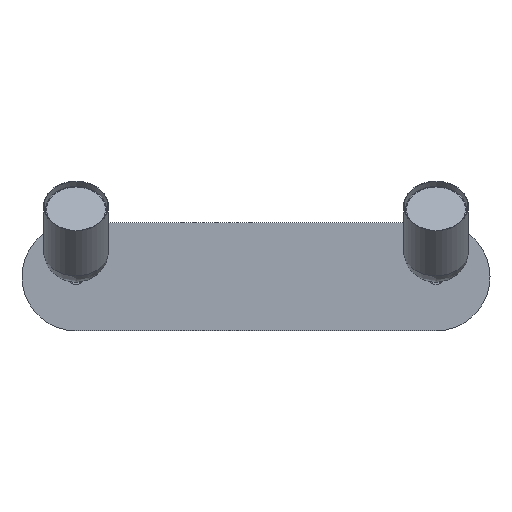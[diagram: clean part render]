
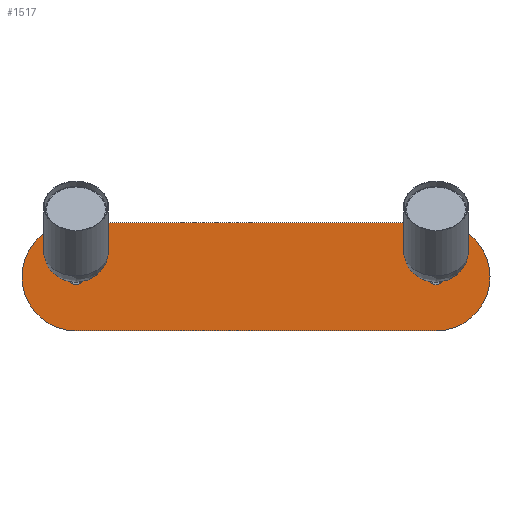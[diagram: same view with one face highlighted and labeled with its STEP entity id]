
A CAD part, front view. The second image highlights one B-rep face of the part: STEP entity #1517.
In plain terms, the highlighted planar face has unit normal (0, -1, 0).
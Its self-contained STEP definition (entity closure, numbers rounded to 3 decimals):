
#210=FACE_OUTER_BOUND('',#307,.T.);
#307=EDGE_LOOP('',(#1337,#1338,#1339,#1340));
#409=LINE('',#2929,#520);
#414=LINE('',#2943,#525);
#520=VECTOR('',#2112,10.);
#525=VECTOR('',#2125,10.);
#596=CIRCLE('',#1713,45.);
#598=CIRCLE('',#1717,45.);
#728=VERTEX_POINT('',#2927);
#729=VERTEX_POINT('',#2928);
#732=VERTEX_POINT('',#2936);
#734=VERTEX_POINT('',#2942);
#927=EDGE_CURVE('',#728,#729,#409,.T.);
#931=EDGE_CURVE('',#732,#728,#596,.T.);
#934=EDGE_CURVE('',#734,#732,#414,.T.);
#937=EDGE_CURVE('',#729,#734,#598,.T.);
#1337=ORIENTED_EDGE('',*,*,#937,.F.);
#1338=ORIENTED_EDGE('',*,*,#927,.F.);
#1339=ORIENTED_EDGE('',*,*,#931,.F.);
#1340=ORIENTED_EDGE('',*,*,#934,.F.);
#1424=PLANE('',#1720);
#1517=ADVANCED_FACE('',(#210),#1424,.F.);
#1713=AXIS2_PLACEMENT_3D('',#2937,#2118,#2119);
#1717=AXIS2_PLACEMENT_3D('',#2948,#2130,#2131);
#1720=AXIS2_PLACEMENT_3D('',#2951,#2136,#2137);
#2112=DIRECTION('',(-1.,0.,0.));
#2118=DIRECTION('center_axis',(0.,1.,0.));
#2119=DIRECTION('ref_axis',(0.,0.,1.));
#2125=DIRECTION('',(1.,0.,0.));
#2130=DIRECTION('center_axis',(0.,1.,0.));
#2131=DIRECTION('ref_axis',(0.,0.,-1.));
#2136=DIRECTION('center_axis',(0.,1.,0.));
#2137=DIRECTION('ref_axis',(1.,0.,0.));
#2927=CARTESIAN_POINT('',(150.,0.,-45.));
#2928=CARTESIAN_POINT('',(-150.,0.,-45.));
#2929=CARTESIAN_POINT('',(150.,0.,-45.));
#2936=CARTESIAN_POINT('',(150.,0.,45.));
#2937=CARTESIAN_POINT('Origin',(150.,0.,0.));
#2942=CARTESIAN_POINT('',(-150.,0.,45.));
#2943=CARTESIAN_POINT('',(-150.,0.,45.));
#2948=CARTESIAN_POINT('Origin',(-150.,0.,0.));
#2951=CARTESIAN_POINT('Origin',(0.,0.,0.));
